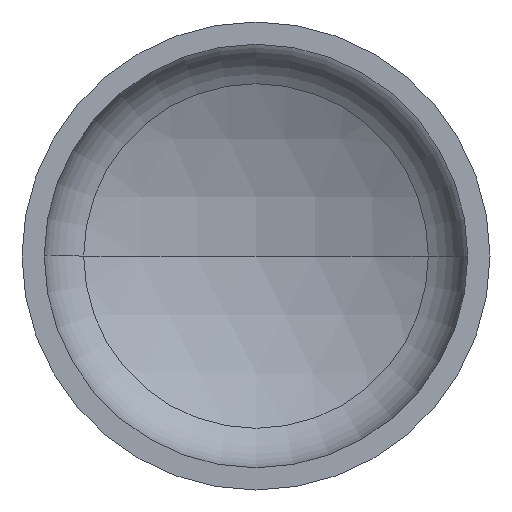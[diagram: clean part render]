
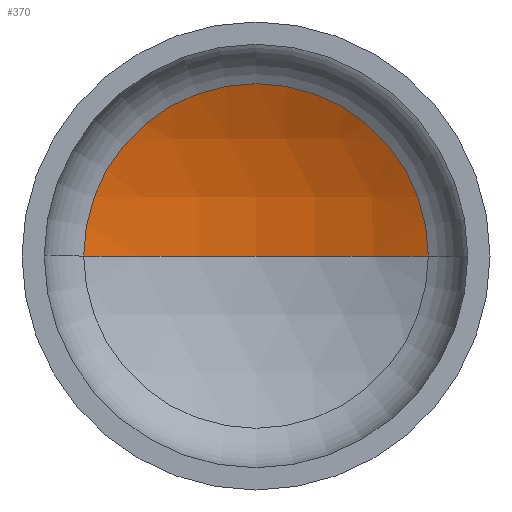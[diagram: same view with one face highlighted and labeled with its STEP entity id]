
A CAD part, front view. The second image highlights one B-rep face of the part: STEP entity #370.
In plain terms, the highlighted spherical face has radius 640 mm.
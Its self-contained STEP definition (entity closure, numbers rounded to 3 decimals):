
#11 = EDGE_LOOP ( 'NONE', ( #132, #68, #49 ) ) ;
#16 = AXIS2_PLACEMENT_3D ( 'NONE', #380, #233, #396 ) ;
#18 = AXIS2_PLACEMENT_3D ( 'NONE', #225, #196, #200 ) ;
#23 = AXIS2_PLACEMENT_3D ( 'NONE', #244, #238, #241 ) ;
#49 = ORIENTED_EDGE ( 'NONE', *, *, #61, .T. ) ;
#61 = EDGE_CURVE ( 'NONE', #199, #135, #340, .T. ) ;
#62 = EDGE_CURVE ( 'NONE', #69, #199, #277, .T. ) ;
#63 = EDGE_CURVE ( 'NONE', #69, #135, #117, .T. ) ;
#68 = ORIENTED_EDGE ( 'NONE', *, *, #62, .T. ) ;
#69 = VERTEX_POINT ( 'NONE', #395 ) ;
#117 = CIRCLE ( 'NONE', #16, 640. ) ;
#132 = ORIENTED_EDGE ( 'NONE', *, *, #63, .F. ) ;
#135 = VERTEX_POINT ( 'NONE', #217 ) ;
#196 = DIRECTION ( 'NONE',  ( 0., 0., -1. ) ) ;
#199 = VERTEX_POINT ( 'NONE', #297 ) ;
#200 = DIRECTION ( 'NONE',  ( -1., 0., 0. ) ) ;
#217 = CARTESIAN_POINT ( 'NONE',  ( -294.524, 230.977, 0. ) ) ;
#225 = CARTESIAN_POINT ( 'NONE',  ( 0., -337.226, 0. ) ) ;
#226 = SPHERICAL_SURFACE ( 'NONE', #408, 640. ) ;
#233 = DIRECTION ( 'NONE',  ( 0., 0., 1. ) ) ;
#238 = DIRECTION ( 'NONE',  ( 0., -1., 0. ) ) ;
#241 = DIRECTION ( 'NONE',  ( 1., 0., 0. ) ) ;
#244 = CARTESIAN_POINT ( 'NONE',  ( 0., 230.977, 0. ) ) ;
#277 = CIRCLE ( 'NONE', #18, 640. ) ;
#287 = CARTESIAN_POINT ( 'NONE',  ( 0., -337.226, 0. ) ) ;
#297 = CARTESIAN_POINT ( 'NONE',  ( 294.524, 230.977, 0. ) ) ;
#332 = DIRECTION ( 'NONE',  ( 0., 0., -1. ) ) ;
#340 = CIRCLE ( 'NONE', #23, 294.524 ) ;
#344 = FACE_OUTER_BOUND ( 'NONE', #11, .T. ) ;
#370 = ADVANCED_FACE ( 'NONE', ( #344 ), #226, .F. ) ;
#380 = CARTESIAN_POINT ( 'NONE',  ( 0., -337.226, 0. ) ) ;
#386 = DIRECTION ( 'NONE',  ( -1., 0., 0. ) ) ;
#395 = CARTESIAN_POINT ( 'NONE',  ( 0., 302.774, 0. ) ) ;
#396 = DIRECTION ( 'NONE',  ( 1., 0., 0. ) ) ;
#408 = AXIS2_PLACEMENT_3D ( 'NONE', #287, #332, #386 ) ;
